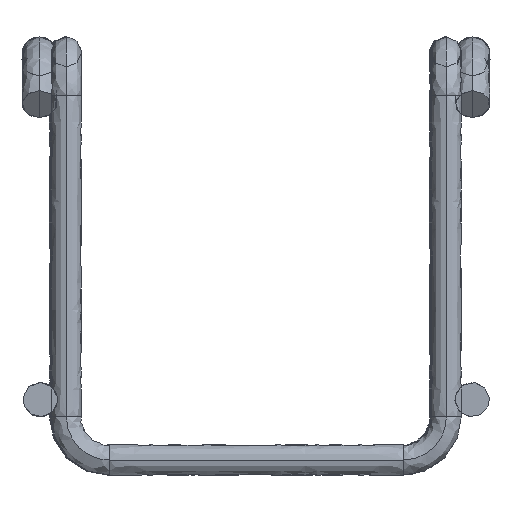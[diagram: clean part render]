
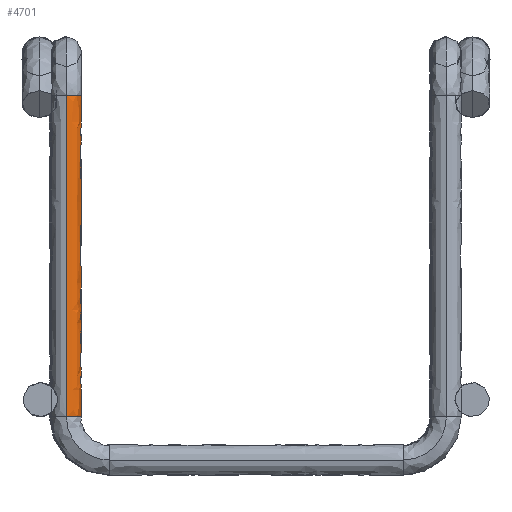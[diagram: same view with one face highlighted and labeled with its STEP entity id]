
A CAD part, front view. The second image highlights one B-rep face of the part: STEP entity #4701.
In plain terms, the highlighted free-form (B-spline) face has degree [3, 2] with [4, 5] control points.
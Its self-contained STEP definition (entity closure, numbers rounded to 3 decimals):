
#18=(
BOUNDED_SURFACE()
B_SPLINE_SURFACE(3,2,((#30173,#30174,#30175,#30176,#30177),(#30178,#30179,
#30180,#30181,#30182),(#30183,#30184,#30185,#30186,#30187),(#30188,#30189,
#30190,#30191,#30192)),.UNSPECIFIED.,.F.,.F.,.F.)
B_SPLINE_SURFACE_WITH_KNOTS((4,4),(3,2,3),(0.,37.25),(5.498,
8.247,10.996),.UNSPECIFIED.)
GEOMETRIC_REPRESENTATION_ITEM()
RATIONAL_B_SPLINE_SURFACE(((1.,0.707,1.,0.707,1.),
(1.,0.707,1.,0.707,1.),(1.,0.707,1.,
0.707,1.),(1.,0.707,1.,0.707,1.)))
REPRESENTATION_ITEM($)
SURFACE()
);
#277=(
BOUNDED_CURVE()
B_SPLINE_CURVE(3,(#30123,#30124,#30125,#30126),.UNSPECIFIED.,.F.,.F.)
B_SPLINE_CURVE_WITH_KNOTS((4,4),(0.,37.25),.UNSPECIFIED.)
CURVE()
GEOMETRIC_REPRESENTATION_ITEM()
RATIONAL_B_SPLINE_CURVE((1.,1.,1.,1.))
REPRESENTATION_ITEM($)
);
#278=(
BOUNDED_CURVE()
B_SPLINE_CURVE(2,(#30127,#30128,#30129,#30130,#30131),.UNSPECIFIED.,.F.,
.F.)
B_SPLINE_CURVE_WITH_KNOTS((3,2,3),(5.498,8.247,10.996),
.UNSPECIFIED.)
CURVE()
GEOMETRIC_REPRESENTATION_ITEM()
RATIONAL_B_SPLINE_CURVE((1.,0.707,1.,0.707,1.))
REPRESENTATION_ITEM($)
);
#280=(
BOUNDED_CURVE()
B_SPLINE_CURVE(3,(#30139,#30140,#30141,#30142),.UNSPECIFIED.,.F.,.F.)
B_SPLINE_CURVE_WITH_KNOTS((4,4),(0.,37.25),.UNSPECIFIED.)
CURVE()
GEOMETRIC_REPRESENTATION_ITEM()
RATIONAL_B_SPLINE_CURVE((1.,1.,1.,1.))
REPRESENTATION_ITEM($)
);
#282=(
BOUNDED_CURVE()
B_SPLINE_CURVE(2,(#30148,#30149,#30150,#30151,#30152),.UNSPECIFIED.,.F.,
.F.)
B_SPLINE_CURVE_WITH_KNOTS((3,2,3),(-10.995,-8.247,-5.498),
.UNSPECIFIED.)
CURVE()
GEOMETRIC_REPRESENTATION_ITEM()
RATIONAL_B_SPLINE_CURVE((1.,0.707,1.,0.707,1.))
REPRESENTATION_ITEM($)
);
#4701=ADVANCED_FACE($,(#5317),#18,.T.);
#5317=FACE_OUTER_BOUND($,#5933,.T.);
#5933=EDGE_LOOP($,(#7038,#7039,#7040,#7041));
#7038=ORIENTED_EDGE($,*,*,#9317,.T.);
#7039=ORIENTED_EDGE($,*,*,#9312,.T.);
#7040=ORIENTED_EDGE($,*,*,#9313,.T.);
#7041=ORIENTED_EDGE($,*,*,#9315,.F.);
#9312=EDGE_CURVE($,#10982,#10983,#277,.T.);
#9313=EDGE_CURVE($,#10983,#10985,#278,.T.);
#9315=EDGE_CURVE($,#10984,#10985,#280,.T.);
#9317=EDGE_CURVE($,#10984,#10982,#282,.T.);
#10982=VERTEX_POINT($,#30193);
#10983=VERTEX_POINT($,#30194);
#10984=VERTEX_POINT($,#30195);
#10985=VERTEX_POINT($,#30196);
#30123=CARTESIAN_POINT($,(0.119,0.17,42.25));
#30124=CARTESIAN_POINT($,(0.119,0.17,29.833));
#30125=CARTESIAN_POINT($,(0.119,0.17,17.417));
#30126=CARTESIAN_POINT($,(0.119,0.17,5.));
#30127=CARTESIAN_POINT($,(0.119,0.17,5.));
#30128=CARTESIAN_POINT($,(1.869,0.17,5.));
#30129=CARTESIAN_POINT($,(1.869,1.92,5.));
#30130=CARTESIAN_POINT($,(1.869,3.67,5.));
#30131=CARTESIAN_POINT($,(0.119,3.67,5.));
#30139=CARTESIAN_POINT($,(0.119,3.67,42.25));
#30140=CARTESIAN_POINT($,(0.119,3.67,29.833));
#30141=CARTESIAN_POINT($,(0.119,3.67,17.417));
#30142=CARTESIAN_POINT($,(0.119,3.67,5.));
#30148=CARTESIAN_POINT($,(0.119,3.67,42.25));
#30149=CARTESIAN_POINT($,(1.869,3.67,42.25));
#30150=CARTESIAN_POINT($,(1.869,1.92,42.25));
#30151=CARTESIAN_POINT($,(1.869,0.17,42.25));
#30152=CARTESIAN_POINT($,(0.119,0.17,42.25));
#30173=CARTESIAN_POINT($,(0.119,0.17,42.25));
#30174=CARTESIAN_POINT($,(1.869,0.17,42.25));
#30175=CARTESIAN_POINT($,(1.869,1.92,42.25));
#30176=CARTESIAN_POINT($,(1.869,3.67,42.25));
#30177=CARTESIAN_POINT($,(0.119,3.67,42.25));
#30178=CARTESIAN_POINT($,(0.119,0.17,29.833));
#30179=CARTESIAN_POINT($,(1.869,0.17,29.833));
#30180=CARTESIAN_POINT($,(1.869,1.92,29.833));
#30181=CARTESIAN_POINT($,(1.869,3.67,29.833));
#30182=CARTESIAN_POINT($,(0.119,3.67,29.833));
#30183=CARTESIAN_POINT($,(0.119,0.17,17.417));
#30184=CARTESIAN_POINT($,(1.869,0.17,17.417));
#30185=CARTESIAN_POINT($,(1.869,1.92,17.417));
#30186=CARTESIAN_POINT($,(1.869,3.67,17.417));
#30187=CARTESIAN_POINT($,(0.119,3.67,17.417));
#30188=CARTESIAN_POINT($,(0.119,0.17,5.));
#30189=CARTESIAN_POINT($,(1.869,0.17,5.));
#30190=CARTESIAN_POINT($,(1.869,1.92,5.));
#30191=CARTESIAN_POINT($,(1.869,3.67,5.));
#30192=CARTESIAN_POINT($,(0.119,3.67,5.));
#30193=CARTESIAN_POINT($,(0.119,0.17,42.25));
#30194=CARTESIAN_POINT($,(0.119,0.17,5.));
#30195=CARTESIAN_POINT($,(0.119,3.67,42.25));
#30196=CARTESIAN_POINT($,(0.119,3.67,5.));
